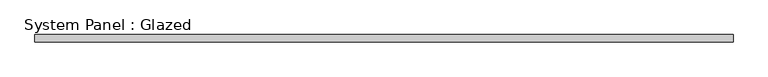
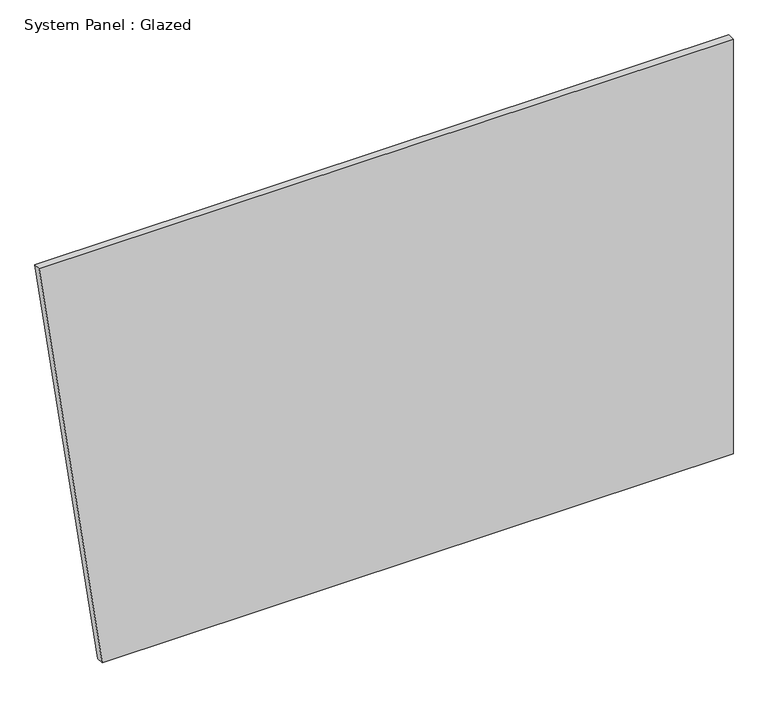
"""IFC4 building model written with IfcOpenShell, lengths in millimetres: plate geometry, System Panel : Glazed."""

from ifc_helpers import new_model, si_unit, frame, origin, place, context, project, spatial, polyline, outline, extrude, source, transform, mapped, element, save


def system_panel_glazed_c67652bb(model_context):
    return source(origin(), model_context, "Body", "SweptSolid", [
        extrude(outline(polyline([(0.0, -986.7625901), (0.0, 1206.0431656), (1524.0, 1206.0431656), (1524.0, -1206.0431656), (0.0, -986.7625901)])), frame((0.0, 19.05, 0.0), z_axis=(0.0, 1.0, 0.0), x_axis=(0.0, 0.0, 1.0)), (0.0, 0.0, 1.0), 25.4),
    ])


if __name__ == "__main__":
    model = new_model("IFC4")
    model_context = context("Model", 3, world=origin())
    ifc_project = project(units=[si_unit("LENGTHUNIT", "METRE", prefix="MILLI")], contexts=[model_context])
    site = spatial("IfcSite", under=ifc_project)
    building = spatial("IfcBuilding", under=site)
    placement = place(None, origin())
    system_panel_glazed_shape = system_panel_glazed_c67652bb(model_context)
    element("IfcPlate", 1, ObjectType="System Panel : Glazed", at=placement, inside=building, context=model_context, shape_type="MappedRepresentation", body=[
        mapped(system_panel_glazed_shape, transform((0.0, 0.0, 0.0), x_axis=(1.0, 0.0, 0.0), y_axis=(0.0, 1.0, 0.0), z_axis=(0.0, 0.0, 1.0))),
    ])
    save(model, "model.ifc")
